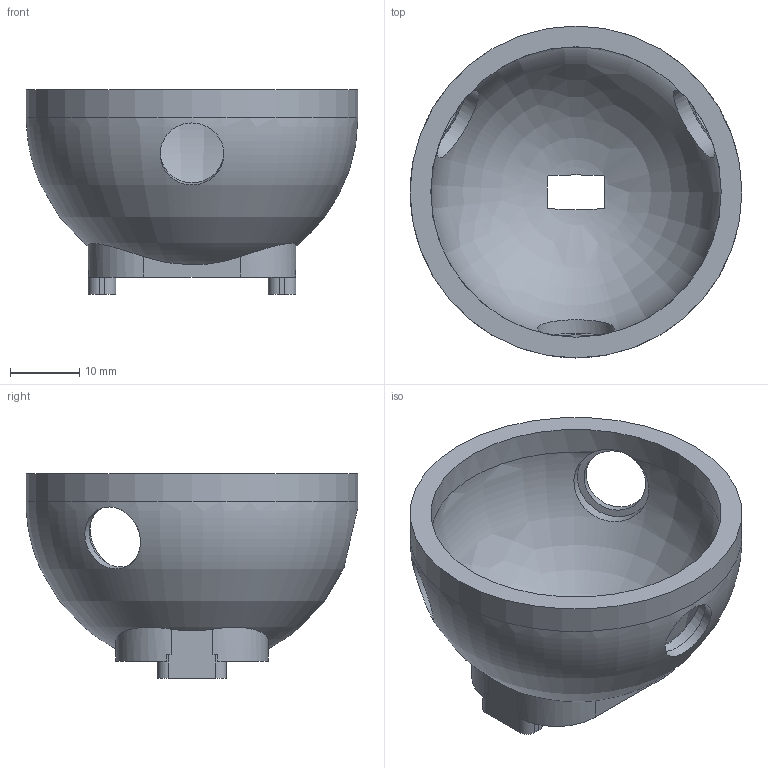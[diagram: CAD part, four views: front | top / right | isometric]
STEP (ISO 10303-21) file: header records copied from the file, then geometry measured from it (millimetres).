
FILE_DESCRIPTION(('Open CASCADE Model'),'2;1');
FILE_NAME('Open CASCADE Shape Model','2026-05-31T19:42:43',('Author'),( 'Open CASCADE'),'Open CASCADE STEP processor 7.6','Open CASCADE 7.6' ,'Unknown');
FILE_SCHEMA(('AP242_MANAGED_MODEL_BASED_3D_ENGINEERING_MIM_LF. {1 0 10303 442 1 1 4 }'));
Length unit declared in the file: millimetre
Products named in the file (1): Open CASCADE STEP translator 7.6 3
Bounding box: 48 x 48 x 29.6 mm (x, y, z)
Volume: 11011.9 mm3; surface area: 8357.6 mm2
Topology: 1 solids, 1 shells, 71 faces, 203 edges, 134 vertices
Faces by surface type: plane 35, cylinder 28, bspline 4, revolution 2, cone 2
Full cylindrical faces by diameter (mm): 2.05 x2, 9.2 x3, 11.2 x3, 42 x1, 48 x1
Entity records: 8090 total; most frequent: CARTESIAN_POINT 4152, DIRECTION 714, ORIENTED_EDGE 402, PCURVE 402, DEFINITIONAL_REPRESENTATION 402, LINE 388, VECTOR 388, EDGE_CURVE 201
